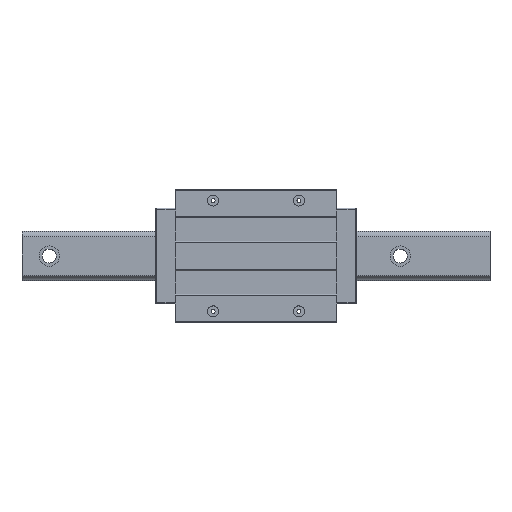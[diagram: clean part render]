
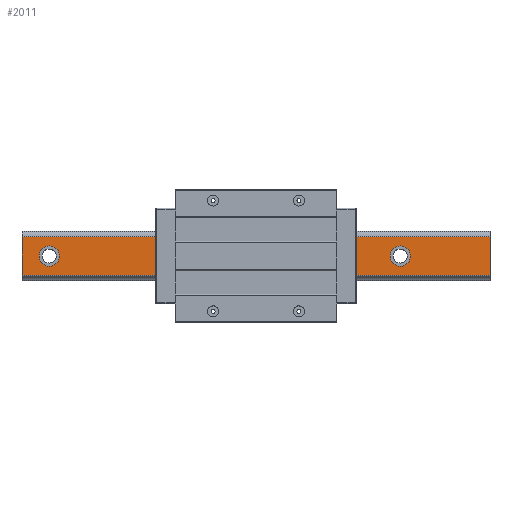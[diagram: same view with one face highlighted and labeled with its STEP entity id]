
A CAD part, top view. The second image highlights one B-rep face of the part: STEP entity #2011.
In plain terms, the highlighted planar face has unit normal (0, 0, 1).
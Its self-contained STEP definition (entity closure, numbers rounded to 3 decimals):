
#6 = CARTESIAN_POINT ( 'NONE',  ( 172., 0., 53. ) ) ;
#80 = CARTESIAN_POINT ( 'NONE',  ( -265., 0., 53. ) ) ;
#86 = VERTEX_POINT ( 'NONE', #2899 ) ;
#161 = ORIENTED_EDGE ( 'NONE', *, *, #1261, .T. ) ;
#182 = VERTEX_POINT ( 'NONE', #1463 ) ;
#224 = EDGE_CURVE ( 'NONE', #935, #1323, #4431, .T. ) ;
#230 = VERTEX_POINT ( 'NONE', #372 ) ;
#290 = FACE_BOUND ( 'NONE', #3926, .T. ) ;
#294 = CARTESIAN_POINT ( 'NONE',  ( 300., -24.864, 53. ) ) ;
#328 = CARTESIAN_POINT ( 'NONE',  ( 300., 25.2, 53. ) ) ;
#369 = DIRECTION ( 'NONE',  ( -1., 0., 0. ) ) ;
#372 = CARTESIAN_POINT ( 'NONE',  ( 48., 0., 53. ) ) ;
#400 = DIRECTION ( 'NONE',  ( 0., 0., -1. ) ) ;
#447 = AXIS2_PLACEMENT_3D ( 'NONE', #3836, #400, #1913 ) ;
#457 = CARTESIAN_POINT ( 'NONE',  ( 300., -24.864, 53. ) ) ;
#645 = DIRECTION ( 'NONE',  ( 0., 0., -1. ) ) ;
#662 = FACE_OUTER_BOUND ( 'NONE', #3303, .T. ) ;
#728 = VERTEX_POINT ( 'NONE', #6 ) ;
#747 = DIRECTION ( 'NONE',  ( 0., 0., -1. ) ) ;
#778 = EDGE_CURVE ( 'NONE', #182, #728, #2905, .T. ) ;
#867 = EDGE_LOOP ( 'NONE', ( #161, #4344 ) ) ;
#885 = CARTESIAN_POINT ( 'NONE',  ( 185., 0., 53. ) ) ;
#935 = VERTEX_POINT ( 'NONE', #3742 ) ;
#1051 = CARTESIAN_POINT ( 'NONE',  ( -278., 0., 53. ) ) ;
#1103 = CARTESIAN_POINT ( 'NONE',  ( -128., 0., 53. ) ) ;
#1124 = CARTESIAN_POINT ( 'NONE',  ( -115., 0., 53. ) ) ;
#1132 = VERTEX_POINT ( 'NONE', #457 ) ;
#1241 = VECTOR ( 'NONE', #369, 1000. ) ;
#1261 = EDGE_CURVE ( 'NONE', #4369, #230, #4675, .T. ) ;
#1306 = ORIENTED_EDGE ( 'NONE', *, *, #778, .T. ) ;
#1323 = VERTEX_POINT ( 'NONE', #1103 ) ;
#1348 = EDGE_CURVE ( 'NONE', #3461, #4242, #4423, .T. ) ;
#1374 = CARTESIAN_POINT ( 'NONE',  ( -252., 0., 53. ) ) ;
#1385 = LINE ( 'NONE', #2924, #4206 ) ;
#1432 = DIRECTION ( 'NONE',  ( 0., 0., -1. ) ) ;
#1463 = CARTESIAN_POINT ( 'NONE',  ( 198., 0., 53. ) ) ;
#1528 = EDGE_CURVE ( 'NONE', #1323, #935, #4190, .T. ) ;
#1539 = EDGE_CURVE ( 'NONE', #86, #2528, #1385, .T. ) ;
#1593 = DIRECTION ( 'NONE',  ( 0., 0., -1. ) ) ;
#1603 = CIRCLE ( 'NONE', #2013, 13. ) ;
#1615 = CIRCLE ( 'NONE', #447, 13. ) ;
#1616 = EDGE_CURVE ( 'NONE', #2528, #1132, #3730, .T. ) ;
#1642 = ORIENTED_EDGE ( 'NONE', *, *, #2506, .F. ) ;
#1679 = CARTESIAN_POINT ( 'NONE',  ( 185., 0., 53. ) ) ;
#1694 = EDGE_LOOP ( 'NONE', ( #1760, #2159 ) ) ;
#1726 = ORIENTED_EDGE ( 'NONE', *, *, #1528, .T. ) ;
#1753 = CARTESIAN_POINT ( 'NONE',  ( -115., 0., 53. ) ) ;
#1760 = ORIENTED_EDGE ( 'NONE', *, *, #1348, .T. ) ;
#1802 = FACE_BOUND ( 'NONE', #1694, .T. ) ;
#1805 = DIRECTION ( 'NONE',  ( 1., 0., 0. ) ) ;
#1843 = DIRECTION ( 'NONE',  ( 0., -1., 0. ) ) ;
#1860 = EDGE_CURVE ( 'NONE', #728, #182, #4805, .T. ) ;
#1913 = DIRECTION ( 'NONE',  ( -1., 0., 0. ) ) ;
#1968 = ORIENTED_EDGE ( 'NONE', *, *, #1539, .T. ) ;
#2011 = ADVANCED_FACE ( 'NONE', ( #662, #2175, #3727, #290, #1802 ), #3348, .F. ) ;
#2013 = AXIS2_PLACEMENT_3D ( 'NONE', #80, #1593, #3139 ) ;
#2080 = VERTEX_POINT ( 'NONE', #3423 ) ;
#2155 = DIRECTION ( 'NONE',  ( -1., 0., 0. ) ) ;
#2159 = ORIENTED_EDGE ( 'NONE', *, *, #3221, .T. ) ;
#2175 = FACE_BOUND ( 'NONE', #3234, .T. ) ;
#2257 = LINE ( 'NONE', #3798, #1241 ) ;
#2262 = DIRECTION ( 'NONE',  ( -1., 0., 0. ) ) ;
#2342 = VECTOR ( 'NONE', #1843, 1000. ) ;
#2401 = DIRECTION ( 'NONE',  ( 0., 0., -1. ) ) ;
#2475 = ORIENTED_EDGE ( 'NONE', *, *, #224, .T. ) ;
#2506 = EDGE_CURVE ( 'NONE', #2080, #1132, #3768, .T. ) ;
#2528 = VERTEX_POINT ( 'NONE', #3019 ) ;
#2603 = AXIS2_PLACEMENT_3D ( 'NONE', #4082, #645, #2155 ) ;
#2643 = DIRECTION ( 'NONE',  ( 0., 0., -1. ) ) ;
#2722 = CARTESIAN_POINT ( 'NONE',  ( 22., 0., 53. ) ) ;
#2899 = CARTESIAN_POINT ( 'NONE',  ( -300., 24.864, 53. ) ) ;
#2901 = AXIS2_PLACEMENT_3D ( 'NONE', #885, #2401, #3944 ) ;
#2905 = CIRCLE ( 'NONE', #2901, 13. ) ;
#2924 = CARTESIAN_POINT ( 'NONE',  ( -300., 0., 53. ) ) ;
#2968 = DIRECTION ( 'NONE',  ( 0., -1., 0. ) ) ;
#3019 = CARTESIAN_POINT ( 'NONE',  ( -300., -24.864, 53. ) ) ;
#3139 = DIRECTION ( 'NONE',  ( -1., 0., 0. ) ) ;
#3221 = EDGE_CURVE ( 'NONE', #4242, #3461, #1603, .T. ) ;
#3223 = DIRECTION ( 'NONE',  ( 0., 0., -1. ) ) ;
#3234 = EDGE_LOOP ( 'NONE', ( #3244, #1306 ) ) ;
#3244 = ORIENTED_EDGE ( 'NONE', *, *, #1860, .T. ) ;
#3297 = DIRECTION ( 'NONE',  ( 0., 0., -1. ) ) ;
#3303 = EDGE_LOOP ( 'NONE', ( #1642, #3305, #1968, #4262 ) ) ;
#3305 = ORIENTED_EDGE ( 'NONE', *, *, #3907, .T. ) ;
#3348 = PLANE ( 'NONE',  #3484 ) ;
#3423 = CARTESIAN_POINT ( 'NONE',  ( 300., 24.864, 53. ) ) ;
#3461 = VERTEX_POINT ( 'NONE', #1051 ) ;
#3484 = AXIS2_PLACEMENT_3D ( 'NONE', #4857, #1432, #2968 ) ;
#3595 = EDGE_CURVE ( 'NONE', #230, #4369, #1615, .T. ) ;
#3727 = FACE_BOUND ( 'NONE', #867, .T. ) ;
#3730 = LINE ( 'NONE', #294, #4214 ) ;
#3742 = CARTESIAN_POINT ( 'NONE',  ( -102., 0., 53. ) ) ;
#3768 = LINE ( 'NONE', #328, #2342 ) ;
#3798 = CARTESIAN_POINT ( 'NONE',  ( 300., 24.864, 53. ) ) ;
#3836 = CARTESIAN_POINT ( 'NONE',  ( 35., 0., 53. ) ) ;
#3907 = EDGE_CURVE ( 'NONE', #2080, #86, #2257, .T. ) ;
#3926 = EDGE_LOOP ( 'NONE', ( #1726, #2475 ) ) ;
#3944 = DIRECTION ( 'NONE',  ( -1., 0., 0. ) ) ;
#4082 = CARTESIAN_POINT ( 'NONE',  ( 35., 0., 53. ) ) ;
#4177 = DIRECTION ( 'NONE',  ( -1., 0., 0. ) ) ;
#4182 = CARTESIAN_POINT ( 'NONE',  ( -265., 0., 53. ) ) ;
#4184 = AXIS2_PLACEMENT_3D ( 'NONE', #1753, #3297, #4813 ) ;
#4190 = CIRCLE ( 'NONE', #4184, 13. ) ;
#4206 = VECTOR ( 'NONE', #4447, 1000. ) ;
#4214 = VECTOR ( 'NONE', #1805, 1000. ) ;
#4242 = VERTEX_POINT ( 'NONE', #1374 ) ;
#4262 = ORIENTED_EDGE ( 'NONE', *, *, #1616, .T. ) ;
#4344 = ORIENTED_EDGE ( 'NONE', *, *, #3595, .T. ) ;
#4369 = VERTEX_POINT ( 'NONE', #2722 ) ;
#4423 = CIRCLE ( 'NONE', #4588, 13. ) ;
#4431 = CIRCLE ( 'NONE', #4505, 13. ) ;
#4447 = DIRECTION ( 'NONE',  ( 0., -1., 0. ) ) ;
#4505 = AXIS2_PLACEMENT_3D ( 'NONE', #1124, #2643, #4177 ) ;
#4588 = AXIS2_PLACEMENT_3D ( 'NONE', #4182, #747, #2262 ) ;
#4675 = CIRCLE ( 'NONE', #2603, 13. ) ;
#4737 = DIRECTION ( 'NONE',  ( -1., 0., 0. ) ) ;
#4755 = AXIS2_PLACEMENT_3D ( 'NONE', #1679, #3223, #4737 ) ;
#4805 = CIRCLE ( 'NONE', #4755, 13. ) ;
#4813 = DIRECTION ( 'NONE',  ( -1., 0., 0. ) ) ;
#4857 = CARTESIAN_POINT ( 'NONE',  ( 300., 0., 53. ) ) ;
